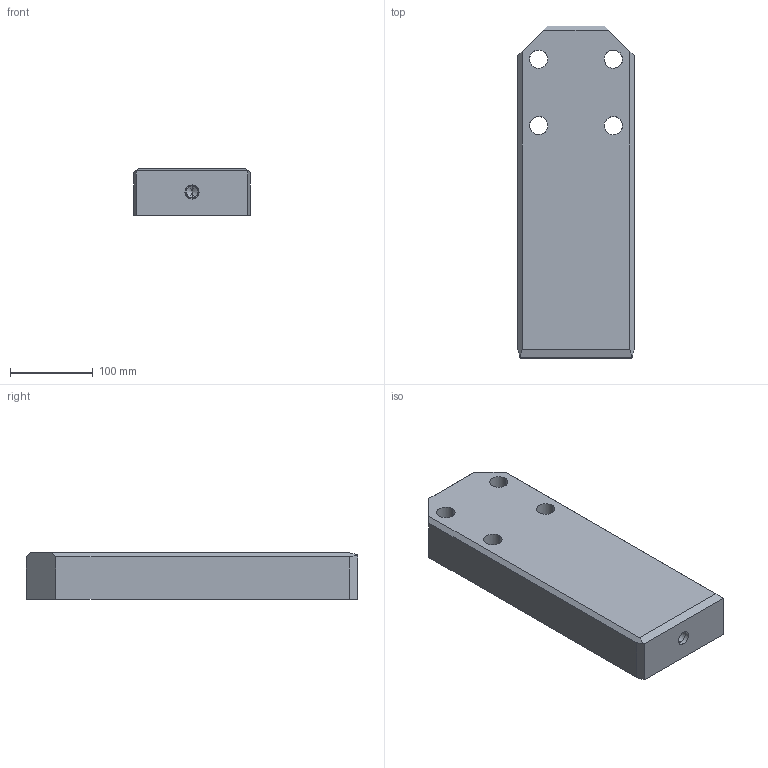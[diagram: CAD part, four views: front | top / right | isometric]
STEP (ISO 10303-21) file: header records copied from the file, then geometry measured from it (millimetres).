
FILE_DESCRIPTION(('CATIA V5 STEP Exchange'),'2;1');
FILE_NAME('C:\Users\borellobunino\Desktop\3D X SITO CF\A927\GSB_OILLESS_G2290514040056\STEP-2.03\A927-140X400X56.stp','2019-07-15T19:45:39+00:00',('none'),('none'),'CATIA Version 5 Release 20 GA (IN-10)','CATIA V5 STEP AP203','none');
FILE_SCHEMA(('CONFIG_CONTROL_DESIGN'));
Length unit declared in the file: millimetre
Products named in the file (1): A927-140X400X56
Bounding box: 140 x 400 x 56 mm (x, y, z)
Volume: 2906982.7 mm3; surface area: 182238.7 mm2
Topology: 1 solids, 1 shells, 52 faces, 134 edges, 89 vertices
Faces by surface type: cylinder 22, plane 20, cone 10
Entity records: 2048 total; most frequent: CARTESIAN_POINT 784, ORIENTED_EDGE 264, DIRECTION 206, EDGE_CURVE 132, VERTEX_POINT 89, AXIS2_PLACEMENT_3D 87, VECTOR 68, LINE 68
